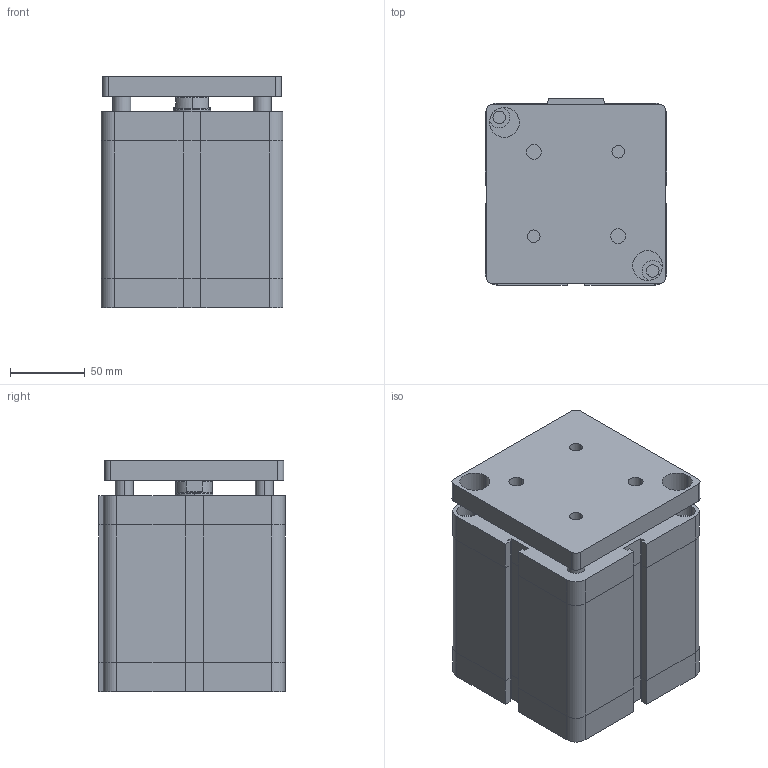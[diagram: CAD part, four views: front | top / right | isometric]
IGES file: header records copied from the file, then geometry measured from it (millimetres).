
Global section: file name: No Iges File Name specified; native system: Autodesk Inventor 2009; preprocessor: AutoDesk Inventor Iges Exporter R2009; author: maffial1; date: 20090420.201427; units: millimetre
Bounding box: 122 x 125 x 155.5 mm (x, y, z)
Volume: 2119259.8 mm3; surface area: 166150.1 mm2
Topology: 2 solids, 2 shells, 212 faces, 486 edges, 298 vertices
Faces by surface type: plane 111, bspline 67, cylinder 26, cone 8
